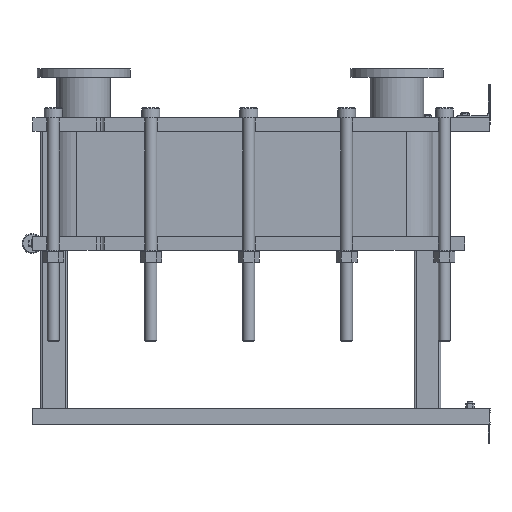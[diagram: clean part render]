
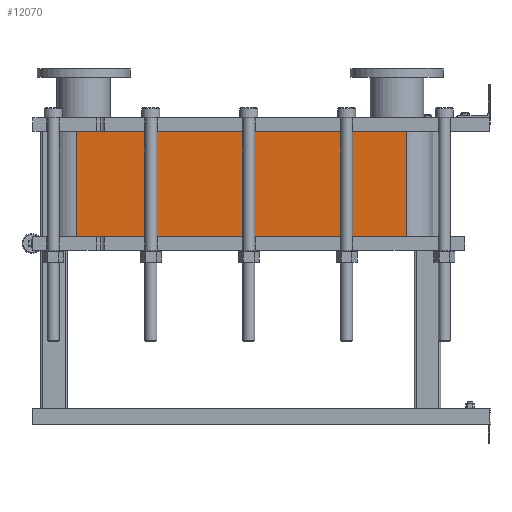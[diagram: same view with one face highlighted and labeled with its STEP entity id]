
A CAD part, left-side view. The second image highlights one B-rep face of the part: STEP entity #12070.
In plain terms, the highlighted planar face has unit normal (-1, 0, 0).
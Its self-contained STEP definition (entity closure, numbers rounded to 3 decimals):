
#1064=LINE('',#21140,#2164);
#1065=LINE('',#21144,#2165);
#1066=LINE('',#21146,#2166);
#1067=LINE('',#21147,#2167);
#2164=VECTOR('',#15790,10.);
#2165=VECTOR('',#15795,10.);
#2166=VECTOR('',#15796,10.);
#2167=VECTOR('',#15797,10.);
#3304=FACE_OUTER_BOUND('',#4091,.T.);
#4091=EDGE_LOOP('',(#9793,#9794,#9795,#9796));
#5677=VERTEX_POINT('',#21137);
#5678=VERTEX_POINT('',#21139);
#5679=VERTEX_POINT('',#21143);
#5680=VERTEX_POINT('',#21145);
#7118=EDGE_CURVE('',#5678,#5677,#1064,.T.);
#7120=EDGE_CURVE('',#5677,#5679,#1065,.T.);
#7121=EDGE_CURVE('',#5680,#5679,#1066,.T.);
#7122=EDGE_CURVE('',#5680,#5678,#1067,.T.);
#9793=ORIENTED_EDGE('',*,*,#7120,.T.);
#9794=ORIENTED_EDGE('',*,*,#7121,.F.);
#9795=ORIENTED_EDGE('',*,*,#7122,.T.);
#9796=ORIENTED_EDGE('',*,*,#7118,.T.);
#11441=PLANE('',#13191);
#12070=ADVANCED_FACE('',(#3304),#11441,.T.);
#13191=AXIS2_PLACEMENT_3D('',#21142,#15793,#15794);
#15790=DIRECTION('',(0.,0.,-1.));
#15793=DIRECTION('center_axis',(-1.,0.,0.));
#15794=DIRECTION('ref_axis',(0.,1.,0.));
#15795=DIRECTION('',(0.,-1.,0.));
#15796=DIRECTION('',(0.,0.,-1.));
#15797=DIRECTION('',(0.,1.,0.));
#21137=CARTESIAN_POINT('',(-248.152,1243.818,-317.4));
#21139=CARTESIAN_POINT('',(-248.152,1243.818,0.));
#21140=CARTESIAN_POINT('',(-248.152,1243.818,0.));
#21142=CARTESIAN_POINT('Origin',(-248.152,251.818,0.));
#21143=CARTESIAN_POINT('',(-248.152,251.818,-317.4));
#21144=CARTESIAN_POINT('',(-248.152,499.818,-317.4));
#21145=CARTESIAN_POINT('',(-248.152,251.818,0.));
#21146=CARTESIAN_POINT('',(-248.152,251.818,0.));
#21147=CARTESIAN_POINT('',(-248.152,251.818,0.));
